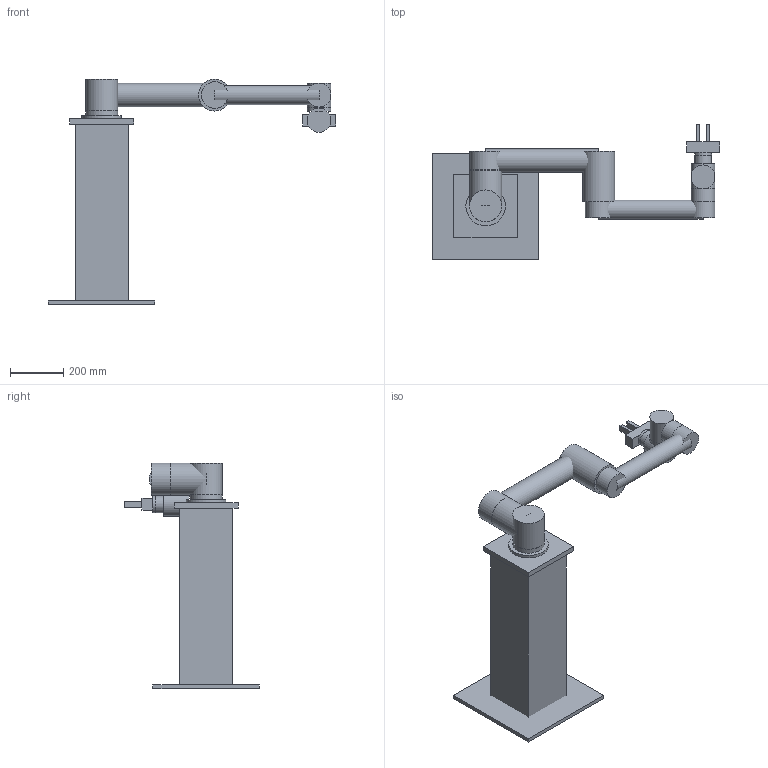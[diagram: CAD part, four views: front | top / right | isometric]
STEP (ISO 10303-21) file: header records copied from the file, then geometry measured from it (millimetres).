
FILE_DESCRIPTION(('Open CASCADE Model'),'2;1');
FILE_NAME('Open CASCADE Shape Model','2026-10-10T15:34:57',('Author'),( 'Open CASCADE'),'Open CASCADE STEP processor 7.9','Open CASCADE 7.9' ,'Unknown');
FILE_SCHEMA(('AUTOMOTIVE_DESIGN { 1 0 10303 214 1 1 1 1 }'));
Length unit declared in the file: millimetre
Products named in the file (34): UR5_Fixed_Manipulator_assembly; pedestal_link; pedestal_column; pedestal_top_plate; pedestal_foot_plate; base_link; ur5_base_flange; ur5_base_housing; shoulder_link; ur5_shoulder_pan_motor; ur5_shoulder_lift_motor; upper_arm_link; ur5_upper_arm_lift_cap; ur5_upper_arm_tube; ur5_elbow_motor; forearm_link; ur5_forearm_elbow_cap; ur5_forearm_tube; ur5_wrist_1_motor; wrist_1_link; ur5_wrist_1_cap; ur5_wrist_2_motor; wrist_2_link; ur5_wrist_2_cap; ur5_wrist_3_motor; wrist_3_link; ur5_tool_flange; gripper_base_link; gripper_adapter; gripper_body; gripper_left_finger; gripper_finger_left; gripper_right_finger; gripper_finger_right
Assembly tree (33 placements, depth 3):
  UR5_Fixed_Manipulator_assembly
    pedestal_link
      pedestal_column
      pedestal_top_plate
      pedestal_foot_plate
    base_link
      ur5_base_flange
      ur5_base_housing
    shoulder_link
      ur5_shoulder_pan_motor
      ur5_shoulder_lift_motor
    upper_arm_link
      ur5_upper_arm_lift_cap
      ur5_upper_arm_tube
      ur5_elbow_motor
    forearm_link
      ur5_forearm_elbow_cap
      ur5_forearm_tube
      ur5_wrist_1_motor
    wrist_1_link
      ur5_wrist_1_cap
      ur5_wrist_2_motor
    wrist_2_link
      ur5_wrist_2_cap
      ur5_wrist_3_motor
    wrist_3_link
      ur5_tool_flange
    gripper_base_link
      gripper_adapter
      gripper_body
    gripper_left_finger
      gripper_finger_left
    gripper_right_finger
      gripper_finger_right
Bounding box: 1079.25 x 506.45 x 849.16 mm (x, y, z)
Volume: 43991707.1 mm3; surface area: 1925023.7 mm2
Topology: 22 solids, 22 shells, 84 faces, 120 edges, 80 vertices
Faces by surface type: plane 68, cylinder 16
Full cylindrical faces by diameter (mm): 64 x2, 72 x1, 88 x1, 90 x5, 100 x1, 120 x5, 149 x1
Entity records: 4100 total; most frequent: DIRECTION 628, CARTESIAN_POINT 558, LINE 296, VECTOR 296, ORIENTED_EDGE 240, PCURVE 240, DEFINITIONAL_REPRESENTATION 240, AXIS2_PLACEMENT_3D 150
